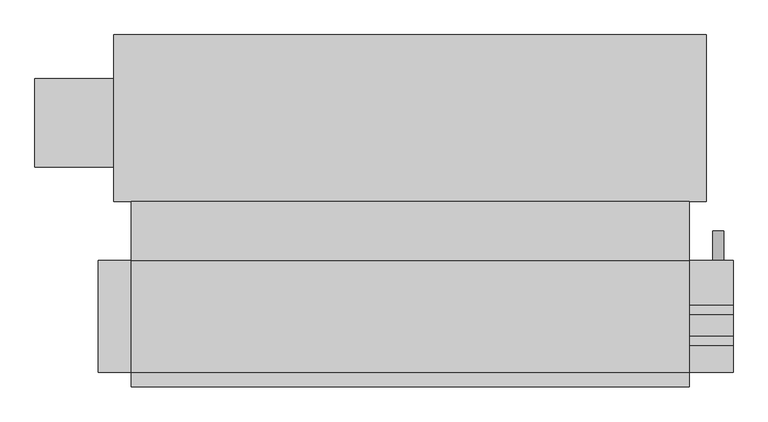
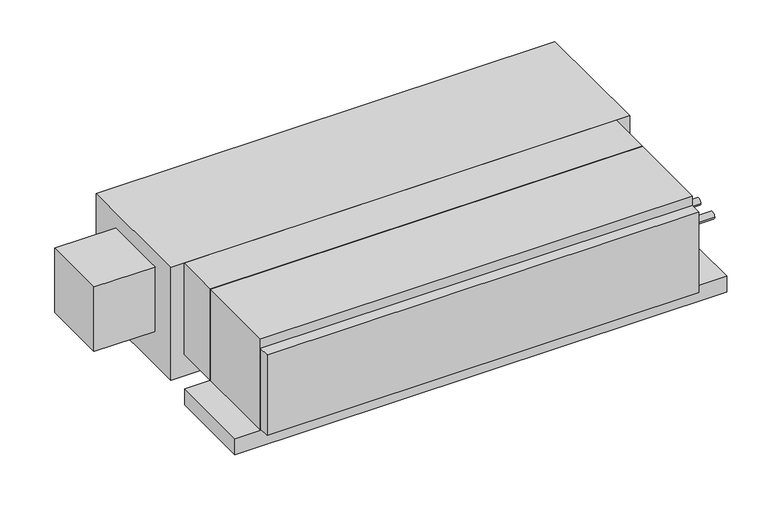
"""IFC4 building model written with IfcOpenShell, lengths in millimetres: proxy geometry, Concealed_Horizontal_Fan_Coil_Unit_With_Plenum_-_42CEA_-_CARRIER_-_2-Pipe_Cool-EHeat_RH_2022 : Size 08 - 277v/60Hz/1Ph - 4 Row 6.0kW."""

from ifc_helpers import new_model, si_unit, point, frame, frame_2d, origin, place, context, project, spatial, polyline, circle_curve, trimmed, segment, composite_curve, outline, extrude, source, transform, mapped, element, save


def mechanical_equipment_dd5e6935(model_context):
    return source(origin(), model_context, "Body", "SweptSolid", [
        extrude(outline(composite_curve([segment(trimmed(circle_curve(frame_2d((-280.9875, -104.775)), 7.9375), [point((-273.05, -104.775))], [point((-288.925, -104.775))], False, "CARTESIAN"), True, "CONTINUOUS"), segment(trimmed(circle_curve(frame_2d((-280.9875, -104.775)), 7.9375), [point((-288.925, -104.775))], [point((-273.05, -104.775))], False, "CARTESIAN"), True, "CONTINUOUS")], self_intersect=False)), frame((635.0, 0.0, 0.0), z_axis=(1.0, 0.0, 0.0), x_axis=(0.0, 1.0, 0.0)), (0.0, 0.0, 1.0), 76.2),
        extrude(outline(composite_curve([segment(trimmed(circle_curve(frame_2d((-227.0125, -104.775)), 7.9375), [point((-219.075, -104.775))], [point((-234.95, -104.775))], False, "CARTESIAN"), True, "CONTINUOUS"), segment(trimmed(circle_curve(frame_2d((-227.0125, -104.775)), 7.9375), [point((-234.95, -104.775))], [point((-219.075, -104.775))], False, "CARTESIAN"), True, "CONTINUOUS")], self_intersect=False)), frame((635.0, 0.0, 0.0), z_axis=(1.0, 0.0, 0.0), x_axis=(0.0, 1.0, 0.0)), (0.0, 0.0, 1.0), 76.2),
        extrude(outline(composite_curve([segment(trimmed(circle_curve(frame_2d((-241.3, 685.8)), 9.525), [point((-241.3, 676.275))], [point((-241.3, 695.325))], False, "CARTESIAN"), True, "CONTINUOUS"), segment(trimmed(circle_curve(frame_2d((-241.3, 685.8)), 9.525), [point((-241.3, 695.325))], [point((-241.3, 676.275))], False, "CARTESIAN"), True, "CONTINUOUS")], self_intersect=False)), frame((0.0, -141.2875, 0.0), z_axis=(0.0, 1.0, 0.0), x_axis=(0.0, 0.0, 1.0)), (0.0, 0.0, 1.0), 50.8),
        extrude(outline(polyline([(-330.2, -39.6875), (635.0, -39.6875), (635.0, -141.2875), (-330.2, -141.2875), (-330.2, -39.6875)])), frame((0.0, 0.0, -215.9), z_axis=(0.0, 0.0, 1.0), x_axis=(1.0, 0.0, 0.0)), (0.0, 0.0, 1.0), 215.9),
        extrude(outline(polyline([(635.0, -360.3625), (-330.2, -360.3625), (-330.2, -334.9625), (635.0, -334.9625), (635.0, -360.3625)])), frame((0.0, 0.0, -212.725), z_axis=(0.0, 0.0, 1.0), x_axis=(1.0, 0.0, 0.0)), (0.0, 0.0, 1.0), 190.5),
        extrude(outline(polyline([(-496.8875, 20.6375), (-496.8875, 173.0375), (-360.3625, 173.0375), (-360.3625, 20.6375), (-496.8875, 20.6375)])), frame((0.0, 0.0, -187.325), z_axis=(0.0, 0.0, 1.0), x_axis=(1.0, 0.0, 0.0)), (0.0, 0.0, 1.0), 152.4),
        extrude(outline(polyline([(-360.3625, 249.2375), (665.1625, 249.2375), (665.1625, -39.6875), (-360.3625, -39.6875), (-360.3625, 249.2375)])), frame((0.0, 0.0, -266.7), z_axis=(0.0, 0.0, 1.0), x_axis=(1.0, 0.0, 0.0)), (0.0, 0.0, 1.0), 266.7),
        extrude(outline(polyline([(635.0, -141.2875), (635.0, -334.9625), (-330.2, -334.9625), (-330.2, -141.2875), (635.0, -141.2875)])), frame((0.0, 0.0, -215.9), z_axis=(0.0, 0.0, 1.0), x_axis=(1.0, 0.0, 0.0)), (0.0, 0.0, 1.0), 215.9),
        extrude(outline(polyline([(711.2, -141.2875), (711.2, -334.9625), (-387.35, -334.9625), (-387.35, -141.2875), (711.2, -141.2875)])), frame((0.0, 0.0, -254.0), z_axis=(0.0, 0.0, 1.0), x_axis=(1.0, 0.0, 0.0)), (0.0, 0.0, 1.0), 38.1),
    ])


if __name__ == "__main__":
    model = new_model("IFC4")
    model_context = context("Model", 3, world=origin())
    ifc_project = project(units=[si_unit("LENGTHUNIT", "METRE", prefix="MILLI")], contexts=[model_context])
    site = spatial("IfcSite", under=ifc_project)
    building = spatial("IfcBuilding", under=site)
    placement = place(None, origin())
    mechanical_equipment_shape = mechanical_equipment_dd5e6935(model_context)
    element("IfcBuildingElementProxy", 1, Name="Concealed_Horizontal_Fan_Coil_Unit_With_Plenum_-_42CEA_-_CARRIER_-_2-Pipe_Cool-EHeat_RH_2022 : Size 08 - 277v/60Hz/1Ph - 4 Row 6.0kW", ObjectType="Concealed_Horizontal_Fan_Coil_Unit_With_Plenum_-_42CEA_-_CARRIER_-_2-Pipe_Cool-EHeat_RH_2022 : Size 08 - 277v/60Hz/1Ph - 4 Row 6.0kW", at=placement, inside=building, context=model_context, shape_type="MappedRepresentation", body=[
        mapped(mechanical_equipment_shape, transform((0.0, 0.0, 0.0), x_axis=(1.0, 0.0, 0.0), y_axis=(0.0, 1.0, 0.0), z_axis=(0.0, 0.0, 1.0))),
    ])
    save(model, "model.ifc")
